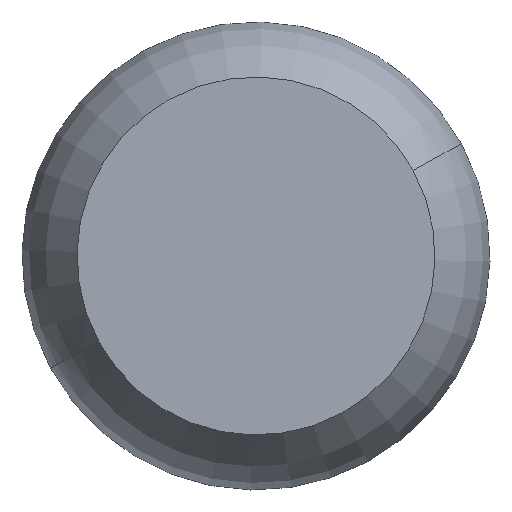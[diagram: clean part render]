
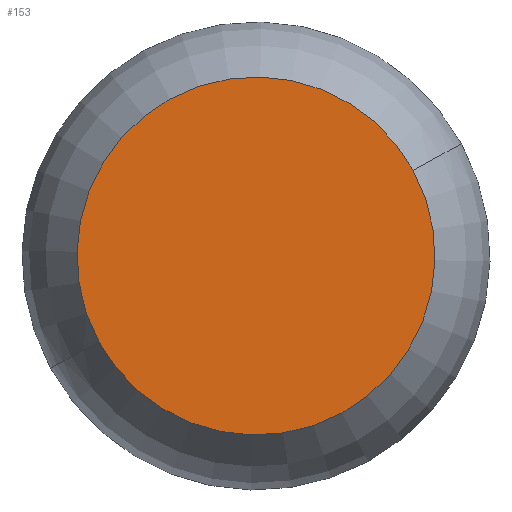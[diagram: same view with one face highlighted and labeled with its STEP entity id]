
A CAD part, front view. The second image highlights one B-rep face of the part: STEP entity #153.
In plain terms, the highlighted planar face has unit normal (0, -1, 0).
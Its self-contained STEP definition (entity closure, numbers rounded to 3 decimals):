
#66=CARTESIAN_POINT('Axis2P3D Location',(0.,0.,0.)) ;
#70=CARTESIAN_POINT('Vertex',(93.024,0.,50.819)) ;
#72=CARTESIAN_POINT('Vertex',(-93.024,0.,-50.819)) ;
#127=CARTESIAN_POINT('Axis2P3D Location',(0.,0.,0.)) ;
#144=CARTESIAN_POINT('Axis2P3D Location',(0.,0.,0.)) ;
#67=DIRECTION('Axis2P3D Direction',(0.,-1.,0.)) ;
#128=DIRECTION('Axis2P3D Direction',(0.,-1.,0.)) ;
#145=DIRECTION('Axis2P3D Direction',(0.,-1.,0.)) ;
#146=DIRECTION('Axis2P3D XDirection',(1.,0.,0.)) ;
#68=AXIS2_PLACEMENT_3D('Circle Axis2P3D',#66,#67,$) ;
#129=AXIS2_PLACEMENT_3D('Circle Axis2P3D',#127,#128,$) ;
#147=AXIS2_PLACEMENT_3D('Plane Axis2P3D',#144,#145,#146) ;
#150=ORIENTED_EDGE('',*,*,#74,.T.) ;
#151=ORIENTED_EDGE('',*,*,#131,.T.) ;
#153=ADVANCED_FACE('PartBody',(#152),#148,.T.) ;
#69=CIRCLE('generated circle',#68,106.) ;
#130=CIRCLE('generated circle',#129,106.) ;
#74=EDGE_CURVE('',#71,#73,#69,.T.) ;
#131=EDGE_CURVE('',#73,#71,#130,.T.) ;
#149=EDGE_LOOP('',(#150,#151)) ;
#152=FACE_OUTER_BOUND('',#149,.T.) ;
#148=PLANE('',#147) ;
#71=VERTEX_POINT('',#70) ;
#73=VERTEX_POINT('',#72) ;
